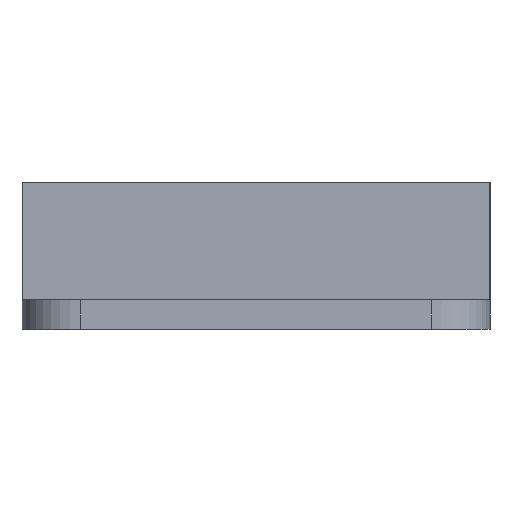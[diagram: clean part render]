
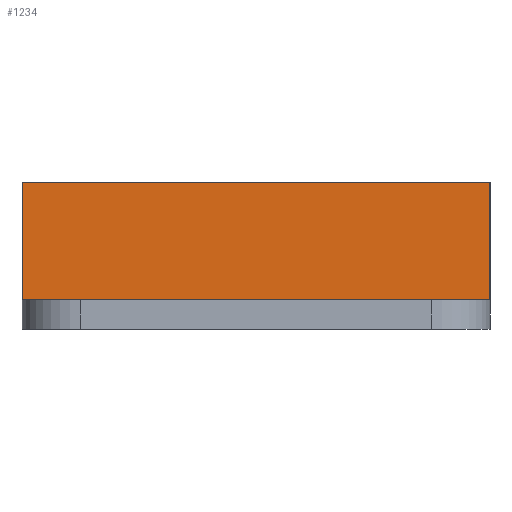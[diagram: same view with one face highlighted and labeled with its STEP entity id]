
A CAD part, left-side view. The second image highlights one B-rep face of the part: STEP entity #1234.
In plain terms, the highlighted planar face has unit normal (-1, 0, 0).
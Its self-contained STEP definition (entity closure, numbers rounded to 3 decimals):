
#72=PLANE('',#1322);
#130=FACE_OUTER_BOUND('',#196,.T.);
#196=EDGE_LOOP('',(#1151,#1152,#1153,#1154));
#208=LINE('',#1671,#366);
#224=LINE('',#1704,#382);
#232=LINE('',#1722,#390);
#357=LINE('',#1978,#515);
#366=VECTOR('',#1366,10.);
#382=VECTOR('',#1386,10.);
#390=VECTOR('',#1400,10.);
#515=VECTOR('',#1627,10.);
#545=VERTEX_POINT('',#1668);
#546=VERTEX_POINT('',#1670);
#561=VERTEX_POINT('',#1702);
#568=VERTEX_POINT('',#1720);
#666=EDGE_CURVE('',#546,#545,#208,.T.);
#683=EDGE_CURVE('',#545,#561,#224,.T.);
#692=EDGE_CURVE('',#568,#561,#232,.T.);
#821=EDGE_CURVE('',#546,#568,#357,.T.);
#1151=ORIENTED_EDGE('',*,*,#821,.F.);
#1152=ORIENTED_EDGE('',*,*,#666,.T.);
#1153=ORIENTED_EDGE('',*,*,#683,.T.);
#1154=ORIENTED_EDGE('',*,*,#692,.F.);
#1234=ADVANCED_FACE('',(#130),#72,.T.);
#1322=AXIS2_PLACEMENT_3D('',#1977,#1625,#1626);
#1366=DIRECTION('',(0.,0.,-1.));
#1386=DIRECTION('',(0.,-1.,0.));
#1400=DIRECTION('',(0.,0.,-1.));
#1625=DIRECTION('center_axis',(-1.,0.,0.));
#1626=DIRECTION('ref_axis',(0.,1.,0.));
#1627=DIRECTION('',(0.,-1.,0.));
#1668=CARTESIAN_POINT('',(-31.,-49.4,0.));
#1670=CARTESIAN_POINT('',(-31.,-49.4,8.));
#1671=CARTESIAN_POINT('',(-31.,-49.4,8.));
#1702=CARTESIAN_POINT('',(-31.,-81.4,0.));
#1704=CARTESIAN_POINT('',(-31.,-73.4,0.));
#1720=CARTESIAN_POINT('',(-31.,-81.4,8.));
#1722=CARTESIAN_POINT('',(-31.,-81.4,8.));
#1977=CARTESIAN_POINT('Origin',(-31.,-81.4,8.));
#1978=CARTESIAN_POINT('',(-31.,-49.4,8.));
